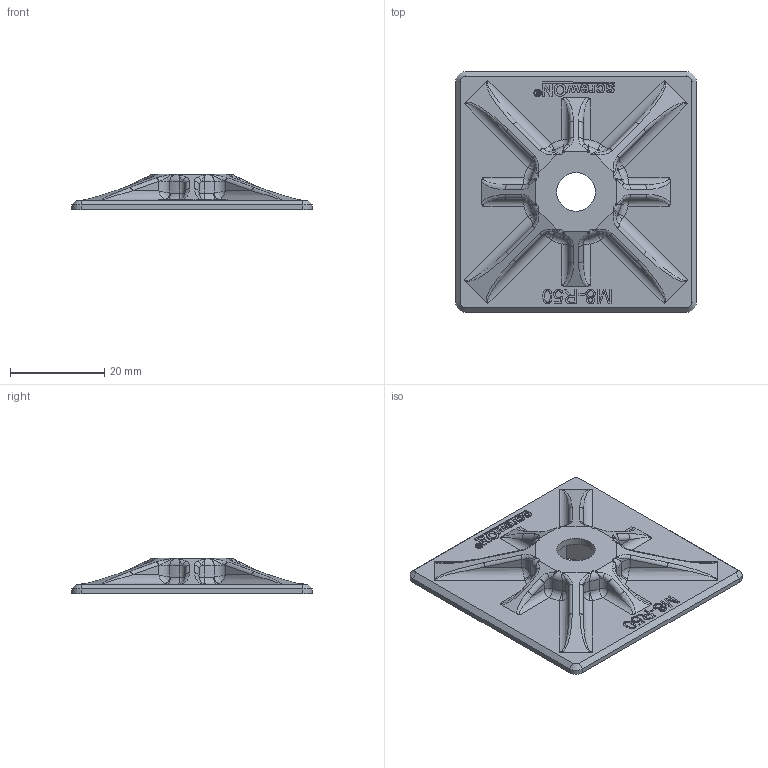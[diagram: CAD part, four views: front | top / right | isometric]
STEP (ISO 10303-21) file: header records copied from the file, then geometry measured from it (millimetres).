
FILE_DESCRIPTION(/* description */ (''),/* implementation_level */ '2;1');
FILE_NAME(/* name */ 'ScrewON Halter Eckig R50.step',/* time_stamp */ '2023-02-23T20:07:52+01:00',/* author */ (''),/* organization */ (''),/* preprocessor_version */ 'ST-DEVELOPER v19.2',/* originating_system */ 'Autodesk Translation Framework v11.17.0.187',/* authorisation */ '');
FILE_SCHEMA (('AUTOMOTIVE_DESIGN { 1 0 10303 214 3 1 1 }'));
Length unit declared in the file: millimetre
Products named in the file (1): ScrewON Halter Eckig 50mm
Bounding box: 51 x 51 x 7.5 mm (x, y, z)
Volume: 6899.5 mm3; surface area: 6245.1 mm2
Topology: 1 solids, 1 shells, 478 faces, 1246 edges, 788 vertices
Faces by surface type: bspline 237, plane 152, cylinder 61, torus 16, sphere 8, cone 4
Full cylindrical faces by diameter (mm): 8.2 x1
Entity records: 19404 total; most frequent: CARTESIAN_POINT 9094, ORIENTED_EDGE 2476, DIRECTION 1518, EDGE_CURVE 1238, VERTEX_POINT 788, LINE 582, VECTOR 582, EDGE_LOOP 506
